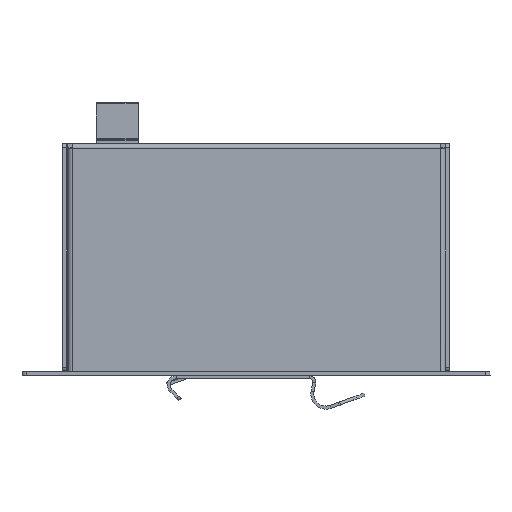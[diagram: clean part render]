
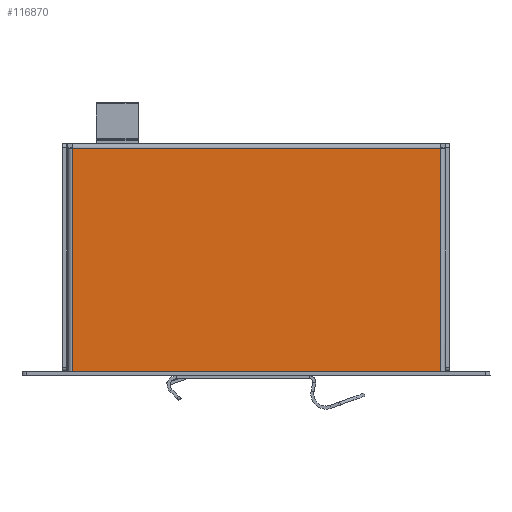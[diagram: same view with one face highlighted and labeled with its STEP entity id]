
A CAD part, front view. The second image highlights one B-rep face of the part: STEP entity #116870.
In plain terms, the highlighted planar face has unit normal (0, -1, 0).
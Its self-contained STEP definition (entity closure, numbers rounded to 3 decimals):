
#3996=PLANE('',#124302);
#10417=FACE_OUTER_BOUND('',#16674,.T.);
#16674=EDGE_LOOP('',(#94385,#94386,#94387,#94388));
#27660=LINE('',#179311,#41615);
#27661=LINE('',#179313,#41616);
#27662=LINE('',#179315,#41617);
#27663=LINE('',#179316,#41618);
#41615=VECTOR('',#144035,10.);
#41616=VECTOR('',#144036,10.);
#41617=VECTOR('',#144037,10.);
#41618=VECTOR('',#144038,10.);
#56390=VERTEX_POINT('',#179309);
#56391=VERTEX_POINT('',#179310);
#56392=VERTEX_POINT('',#179312);
#56393=VERTEX_POINT('',#179314);
#70402=EDGE_CURVE('',#56390,#56391,#27660,.T.);
#70403=EDGE_CURVE('',#56391,#56392,#27661,.T.);
#70404=EDGE_CURVE('',#56392,#56393,#27662,.T.);
#70405=EDGE_CURVE('',#56390,#56393,#27663,.T.);
#94385=ORIENTED_EDGE('',*,*,#70402,.T.);
#94386=ORIENTED_EDGE('',*,*,#70403,.T.);
#94387=ORIENTED_EDGE('',*,*,#70404,.T.);
#94388=ORIENTED_EDGE('',*,*,#70405,.F.);
#116870=ADVANCED_FACE('',(#10417),#3996,.F.);
#124302=AXIS2_PLACEMENT_3D('',#179308,#144033,#144034);
#144033=DIRECTION('center_axis',(0.,1.,0.));
#144034=DIRECTION('ref_axis',(0.,0.,1.));
#144035=DIRECTION('',(0.,0.,1.));
#144036=DIRECTION('',(-1.,0.,0.));
#144037=DIRECTION('',(0.,0.,-1.));
#144038=DIRECTION('',(-1.,0.,0.));
#179308=CARTESIAN_POINT('Origin',(-5.73,-13.171,0.));
#179309=CARTESIAN_POINT('',(39.545,-13.171,-28.));
#179310=CARTESIAN_POINT('',(39.545,-13.171,26.9));
#179311=CARTESIAN_POINT('',(39.545,-13.171,-14.));
#179312=CARTESIAN_POINT('',(-51.005,-13.171,26.9));
#179313=CARTESIAN_POINT('',(17.458,-13.171,26.9));
#179314=CARTESIAN_POINT('',(-51.005,-13.171,-28.));
#179315=CARTESIAN_POINT('',(-51.005,-13.171,13.45));
#179316=CARTESIAN_POINT('',(40.645,-13.171,-28.));
